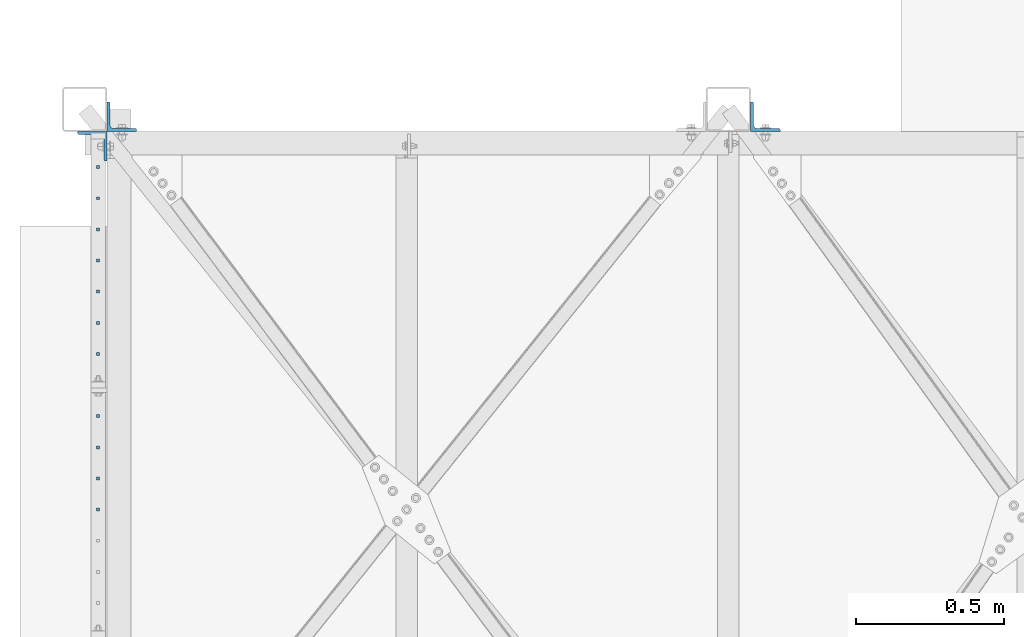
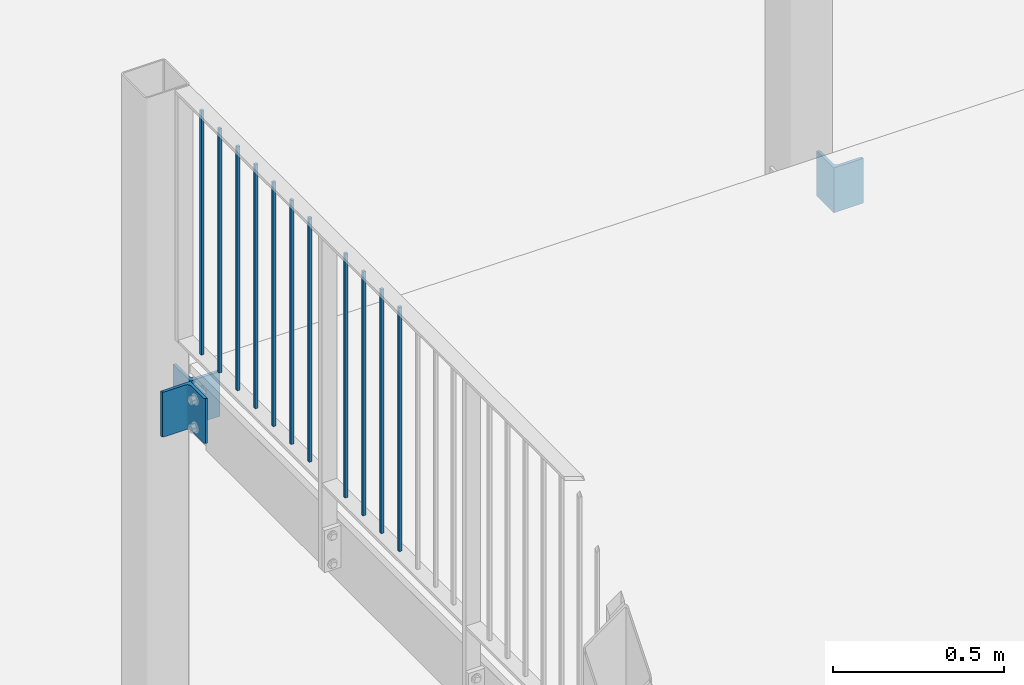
# One storey, part 47 of 78: 14 beams, 3 elements without a shape of their own.
"""IFC2X3 building model written with IfcOpenShell, lengths in millimetres."""

import ifcopenshell
import ifcopenshell.guid

model = None  # the IFC model being written
_history = None  # IfcOwnerHistory: only IFC2X3 demands one
_inside = {}  # id of a spatial element -> (the spatial element, [elements in it])
_under = {}  # id of a project, library or spatial element -> (it, [spatial elements below it])
_declared = {}  # id of a project -> (the project, [libraries it declares])
_typed = {}  # id of a type object -> (the type object, [elements of that type])
_made_of = {}  # id of a material, layer set ... -> (it, [elements and type objects made of it])


def new_model(schema):
    """Start an empty IFC model of exactly this schema.

    Asked for "IFC4X3", IfcOpenShell would pick the latest addendum, in which some entities
    have other attributes; the version numbers below select the first issue.
    IFC2X3 requires an IfcOwnerHistory on every rooted entity: one is made here for all.
    """
    global model, _history
    if schema == "IFC4X3":
        model = ifcopenshell.file(schema_version=(4, 3, 0, 0))
    else:
        model = ifcopenshell.file(schema=schema)
    _inside.clear()
    _under.clear()
    _declared.clear()
    _typed.clear()
    _made_of.clear()
    _history = None
    if model.schema == "IFC2X3":
        org = make("IfcOrganization", Name="unknown")
        user = make(
            "IfcPersonAndOrganization",
            ThePerson=make("IfcPerson", FamilyName="unknown"),
            TheOrganization=org,
        )
        app = make(
            "IfcApplication",
            ApplicationDeveloper=org,
            Version="unknown",
            ApplicationFullName="unknown",
            ApplicationIdentifier="unknown",
        )
        _history = make(
            "IfcOwnerHistory",
            OwningUser=user,
            OwningApplication=app,
            ChangeAction="ADDED",
            CreationDate=0,
        )
    return model


def make(cls, **values):
    """One entity of the class cls with the attributes given. An attribute that is None is left unset."""
    return model.create_entity(
        cls, **{name: value for name, value in values.items() if value is not None}
    )


def rooted(cls, **values):
    """An entity with a GlobalId (a new one), such as an element, a storey or a relation."""
    return make(cls, GlobalId=ifcopenshell.guid.new(), OwnerHistory=_history, **values)


def si_unit(unit_type, name, prefix=None):
    """IfcSIUnit, for example si_unit("LENGTHUNIT", "METRE", prefix="MILLI")."""
    return make("IfcSIUnit", UnitType=unit_type, Prefix=prefix, Name=name)


def assignment(units):
    """IfcUnitAssignment: the units of a project."""
    return None if units is None else make("IfcUnitAssignment", Units=units)


def point(xyz):
    """IfcCartesianPoint."""
    return None if xyz is None else make("IfcCartesianPoint", Coordinates=xyz)


def direction(xyz):
    """IfcDirection."""
    return None if xyz is None else make("IfcDirection", DirectionRatios=xyz)


def frame(location, z_axis=None, x_axis=None):
    """IfcAxis2Placement3D, a coordinate frame: its origin and axes. An axis left out is left unset."""
    return make(
        "IfcAxis2Placement3D",
        Location=point(location),
        Axis=direction(z_axis),
        RefDirection=direction(x_axis),
    )


def frame_2d(location, x_axis=None):
    """IfcAxis2Placement2D, a coordinate frame in the plane: its origin and x axis."""
    return make(
        "IfcAxis2Placement2D", Location=point(location), RefDirection=direction(x_axis)
    )


def origin_with_axes():
    """The frame at (0, 0, 0) with the z axis (0, 0, 1) and the x axis (1, 0, 0) written out."""
    return frame((0.0, 0.0, 0.0), z_axis=(0.0, 0.0, 1.0), x_axis=(1.0, 0.0, 0.0))


def origin_2d_with_axis():
    """The frame at (0, 0) in the plane with the x axis (1, 0) written out."""
    return frame_2d((0.0, 0.0), x_axis=(1.0, 0.0))


def place(relative_to, where):
    """IfcLocalPlacement: puts the frame where relative to a parent placement (None: the world)."""
    return make(
        "IfcLocalPlacement", PlacementRelTo=relative_to, RelativePlacement=where
    )


def context(
    kind, dimensions, precision=None, world=None, true_north=None, identifier=None
):
    """IfcGeometricRepresentationContext, for example the 3D "Model" context."""
    return make(
        "IfcGeometricRepresentationContext",
        ContextIdentifier=identifier,
        ContextType=kind,
        CoordinateSpaceDimension=dimensions,
        Precision=precision,
        WorldCoordinateSystem=world,
        TrueNorth=true_north,
    )


def subcontext(parent, identifier, kind, view, scale=None):
    """IfcGeometricRepresentationSubContext, for example "Body" below "Model"."""
    return make(
        "IfcGeometricRepresentationSubContext",
        ContextIdentifier=identifier,
        ContextType=kind,
        ParentContext=parent,
        TargetScale=scale,
        TargetView=view,
    )


def project(units=None, contexts=None):
    """IfcProject with its units and contexts."""
    return rooted(
        "IfcProject",
        Name="project",
        RepresentationContexts=contexts,
        UnitsInContext=assignment(units),
    )


def spatial(cls, under=None, at=None, **own):
    """A site, building, storey or space (cls), placed at a placement, below another one or the project."""
    s = rooted(cls, ObjectPlacement=at, **own)
    if under is not None:
        _under.setdefault(under.id(), (under, []))[1].append(s)
    return s


def profile(cls, at=None, kind="AREA", **sizes):
    """A parametric profile (cls). Its sizes go by their IFC names, for example OverallWidth=200.0."""
    return make(cls, ProfileType=kind, Position=at, **sizes)


def rectangle(**sizes):
    """IfcRectangleProfileDef."""
    return profile("IfcRectangleProfileDef", **sizes)


def l_section(**sizes):
    """IfcLShapeProfileDef."""
    return profile("IfcLShapeProfileDef", **sizes)


def extrude(swept, where, along, depth):
    """IfcExtrudedAreaSolid: the profile swept, set in the frame where, extruded along a direction by depth."""
    return make(
        "IfcExtrudedAreaSolid",
        SweptArea=swept,
        Position=where,
        ExtrudedDirection=direction(along),
        Depth=depth,
    )


def clip(a, b, op="DIFFERENCE"):
    """IfcBooleanClippingResult: the solid a cut by the half space b."""
    return make(
        "IfcBooleanClippingResult", Operator=op, FirstOperand=a, SecondOperand=b
    )


def halfspace(plane, agree):
    """IfcHalfSpaceSolid: all space on one side of the plane z = 0 of the frame plane."""
    return make(
        "IfcHalfSpaceSolid",
        BaseSurface=make("IfcPlane", Position=plane),
        AgreementFlag=agree,
    )


def shape(context_of_items, identifier, shape_type, items):
    """IfcShapeRepresentation: the items that make up one representation, for example the "Body"."""
    return make(
        "IfcShapeRepresentation",
        ContextOfItems=context_of_items,
        RepresentationIdentifier=identifier,
        RepresentationType=shape_type,
        Items=items,
    )


def material(Name=None, Category=None):
    """IfcMaterial."""
    return make("IfcMaterial", Name=Name, Category=Category)


def made_of(thing, what):
    """Note that an element or type object is made of a material, layer set ...; save() writes the relation."""
    if what is not None:
        _made_of.setdefault(what.id(), (what, []))[1].append(thing)
    return thing


def type_object(cls, material=None, **own):
    """A type object (cls), such as IfcWallType, which elements share."""
    return made_of(rooted(cls, **own), material)


def element(
    cls,
    number,
    at=None,
    inside=None,
    cuts=None,
    type_object=None,
    material=None,
    context=None,
    identifier="Body",
    shape_type=None,
    held_by="IfcProductDefinitionShape",
    body=None,
    shapes=None,
    **own,
):
    """One element of the class cls, such as IfcWall. Its Tag is "e" and its number.

    at: its placement. inside: the storey or other place that contains it. cuts: it is an
    opening in that element (IfcRelVoidsElement). A single representation is given by context,
    identifier, shape_type and body (its items); several are given by shapes. held_by: the class
    of the entity that holds the representations. save() writes the other relations.
    """
    e = rooted(cls, Tag="e%d" % number, ObjectPlacement=at, **own)
    if body is not None:
        shapes = [shape(context, identifier, shape_type, body)]
    if shapes is not None:
        e.Representation = make(held_by, Representations=shapes)
    if inside is not None:
        _inside.setdefault(inside.id(), (inside, []))[1].append(e)
    if cuts is not None:
        rooted(
            "IfcRelVoidsElement", RelatingBuildingElement=cuts, RelatedOpeningElement=e
        )
    if type_object is not None:
        _typed.setdefault(type_object.id(), (type_object, []))[1].append(e)
    return made_of(e, material)


def aggregate(whole, parts):
    """IfcRelAggregates: a whole, such as a stair, and the parts it consists of."""
    return rooted("IfcRelAggregates", RelatingObject=whole, RelatedObjects=parts)


def save(model, path):
    """Write the relations noted so far, then the file.

    IfcRelAggregates (storeys below a building ...), IfcRelContainedInSpatialStructure (elements
    in a storey), IfcRelDefinesByType, IfcRelAssociatesMaterial and IfcRelDeclares: one each for
    every whole, place, type object, material and project.
    """
    for whole, parts in _under.values():
        aggregate(whole, parts)
    for where, things in _inside.values():
        rooted(
            "IfcRelContainedInSpatialStructure",
            RelatedElements=things,
            RelatingStructure=where,
        )
    for kind, things in _typed.values():
        rooted("IfcRelDefinesByType", RelatedObjects=things, RelatingType=kind)
    for what, things in _made_of.values():
        rooted("IfcRelAssociatesMaterial", RelatedObjects=things, RelatingMaterial=what)
    for by, libraries in _declared.values():
        rooted("IfcRelDeclares", RelatingContext=by, RelatedDefinitions=libraries)
    model.write(path)


model = new_model("IFC2X3")

# Units and contexts
model_context = context("Model", 3, precision=1e-05, world=origin_with_axes())
body_context = subcontext(model_context, "Body", "Model", "MODEL_VIEW")
ifc_project = project(units=[si_unit("LENGTHUNIT", "METRE", prefix="MILLI"), si_unit("AREAUNIT", "SQUARE_METRE"), si_unit("VOLUMEUNIT", "CUBIC_METRE"), si_unit("MASSUNIT", "GRAM", prefix="KILO"), si_unit("TIMEUNIT", "SECOND"), si_unit("PLANEANGLEUNIT", "RADIAN"), si_unit("SOLIDANGLEUNIT", "STERADIAN"), si_unit("THERMODYNAMICTEMPERATUREUNIT", "DEGREE_CELSIUS"), si_unit("LUMINOUSINTENSITYUNIT", "LUMEN")], contexts=[model_context])

# Site, building, storey
site_placement = place(None, origin_with_axes())
site = spatial("IfcSite", under=ifc_project, at=site_placement, Name="Site", CompositionType="ELEMENT")
building_placement = place(site_placement, origin_with_axes())
building = spatial("IfcBuilding", under=site, at=building_placement, Name="Undefined", CompositionType="ELEMENT")
storey_placement = place(building_placement, origin_with_axes())
storey = spatial("IfcBuildingStorey", under=building, at=storey_placement, Name="Undefined", CompositionType="ELEMENT", Elevation=0.0)

# Assembly, beams
assembly_1_placement = place(storey_placement, origin_with_axes())
assembly_1 = element("IfcElementAssembly", 1, at=assembly_1_placement, inside=storey, Name="MAIN_COURANTE", AssemblyPlace="NOTDEFINED", PredefinedType="RIGID_FRAME")
ifc_material = material(Name="STEEL/S235JR")
beam_type_1 = type_object("IfcBeamType", Name="PL10*10", PredefinedType="NOTDEFINED")
beam_1_placement = place(assembly_1_placement, frame((-35341.4299999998, 11458.0, 157695.04), z_axis=(1.0, 0.0, 0.0), x_axis=(0.0, 0.0, -1.0)))
beam_1 = element("IfcBeam", 2, at=beam_1_placement, type_object=beam_type_1, material=ifc_material, Name="LISSE", ObjectType="PL10*10", context=body_context, shape_type="Clipping", body=[
    clip(clip(extrude(rectangle(XDim=10.0, YDim=10.0, at=origin_2d_with_axis()), frame((880.0, 0.0, 0.0), z_axis=(-1.0, 0.0, 0.0), x_axis=(0.0, -1.0, 0.0)), (0.0, 0.0, 1.0), 880.0), halfspace(frame((875.0, 0.0, 1005.0), z_axis=(1.0, 0.0, 0.0), x_axis=(0.0, 1.0, 0.0)), False)), halfspace(frame((5.0, 0.0, 1005.0), z_axis=(-1.0, 0.0, 0.0), x_axis=(0.0, -1.0, 0.0)), False)),
])
beam_2_placement = place(assembly_1_placement, frame((-35341.4299999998, 11563.0, 157695.04), z_axis=(1.0, 0.0, 0.0), x_axis=(0.0, 0.0, -1.0)))
beam_2 = element("IfcBeam", 3, at=beam_2_placement, type_object=beam_type_1, material=ifc_material, Name="LISSE", ObjectType="PL10*10", context=body_context, shape_type="Clipping", body=[
    clip(clip(extrude(rectangle(XDim=10.0, YDim=10.0, at=origin_2d_with_axis()), frame((880.0, 0.0, 0.0), z_axis=(-1.0, 0.0, 0.0), x_axis=(0.0, -1.0, 0.0)), (0.0, 0.0, 1.0), 880.0), halfspace(frame((875.0, 0.0, 1005.0), z_axis=(1.0, 0.0, 0.0), x_axis=(0.0, 1.0, 0.0)), False)), halfspace(frame((5.0, 0.0, 1005.0), z_axis=(-1.0, 0.0, 0.0), x_axis=(0.0, -1.0, 0.0)), False)),
])
beam_3_placement = place(assembly_1_placement, frame((-35341.4299999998, 11668.0, 157695.04), z_axis=(1.0, 0.0, 0.0), x_axis=(0.0, 0.0, -1.0)))
beam_3 = element("IfcBeam", 4, at=beam_3_placement, type_object=beam_type_1, material=ifc_material, Name="LISSE", ObjectType="PL10*10", context=body_context, shape_type="Clipping", body=[
    clip(clip(extrude(rectangle(XDim=10.0, YDim=10.0, at=origin_2d_with_axis()), frame((880.0, 0.0, 0.0), z_axis=(-1.0, 0.0, 0.0), x_axis=(0.0, -1.0, 0.0)), (0.0, 0.0, 1.0), 880.0), halfspace(frame((875.0, 0.0, 1005.0), z_axis=(1.0, 0.0, 0.0), x_axis=(0.0, 1.0, 0.0)), False)), halfspace(frame((5.0, 0.0, 1005.0), z_axis=(-1.0, 0.0, 0.0), x_axis=(0.0, -1.0, 0.0)), False)),
])
beam_4_placement = place(assembly_1_placement, frame((-35341.4299999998, 11773.0, 157695.04), z_axis=(1.0, 0.0, 0.0), x_axis=(0.0, 0.0, -1.0)))
beam_4 = element("IfcBeam", 5, at=beam_4_placement, type_object=beam_type_1, material=ifc_material, Name="LISSE", ObjectType="PL10*10", context=body_context, shape_type="Clipping", body=[
    clip(clip(extrude(rectangle(XDim=10.0, YDim=10.0, at=origin_2d_with_axis()), frame((880.0, 0.0, 0.0), z_axis=(-1.0, 0.0, 0.0), x_axis=(0.0, -1.0, 0.0)), (0.0, 0.0, 1.0), 880.0), halfspace(frame((875.0, 0.0, 1005.0), z_axis=(1.0, 0.0, 0.0), x_axis=(0.0, 1.0, 0.0)), False)), halfspace(frame((5.0, 0.0, 1005.0), z_axis=(-1.0, 0.0, 0.0), x_axis=(0.0, -1.0, 0.0)), False)),
])
beam_5_placement = place(assembly_1_placement, frame((-35341.4299999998, 11983.0, 157695.04), z_axis=(1.0, 0.0, 0.0), x_axis=(0.0, 0.0, -1.0)))
beam_5 = element("IfcBeam", 6, at=beam_5_placement, type_object=beam_type_1, material=ifc_material, Name="LISSE", ObjectType="PL10*10", context=body_context, shape_type="Clipping", body=[
    clip(clip(extrude(rectangle(XDim=10.0, YDim=10.0, at=origin_2d_with_axis()), frame((880.0, 0.0, 0.0), z_axis=(-1.0, 0.0, 0.0), x_axis=(0.0, -1.0, 0.0)), (0.0, 0.0, 1.0), 880.0), halfspace(frame((875.0, 0.0, 1005.0), z_axis=(1.0, 0.0, 0.0), x_axis=(0.0, 1.0, 0.0)), False)), halfspace(frame((5.0, 0.0, 1005.0), z_axis=(-1.0, 0.0, 0.0), x_axis=(0.0, -1.0, 0.0)), False)),
])
beam_6_placement = place(assembly_1_placement, frame((-35341.4299999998, 12088.0, 157695.04), z_axis=(1.0, 0.0, 0.0), x_axis=(0.0, 0.0, -1.0)))
beam_6 = element("IfcBeam", 7, at=beam_6_placement, type_object=beam_type_1, material=ifc_material, Name="LISSE", ObjectType="PL10*10", context=body_context, shape_type="Clipping", body=[
    clip(clip(extrude(rectangle(XDim=10.0, YDim=10.0, at=origin_2d_with_axis()), frame((880.0, 0.0, 0.0), z_axis=(-1.0, 0.0, 0.0), x_axis=(0.0, -1.0, 0.0)), (0.0, 0.0, 1.0), 880.0), halfspace(frame((875.0, 0.0, 1005.0), z_axis=(1.0, 0.0, 0.0), x_axis=(0.0, 1.0, 0.0)), False)), halfspace(frame((5.0, 0.0, 1005.0), z_axis=(-1.0, 0.0, 0.0), x_axis=(0.0, -1.0, 0.0)), False)),
])
beam_7_placement = place(assembly_1_placement, frame((-35341.4299999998, 12193.0, 157695.04), z_axis=(1.0, 0.0, 0.0), x_axis=(0.0, 0.0, -1.0)))
beam_7 = element("IfcBeam", 8, at=beam_7_placement, type_object=beam_type_1, material=ifc_material, Name="LISSE", ObjectType="PL10*10", context=body_context, shape_type="Clipping", body=[
    clip(clip(extrude(rectangle(XDim=10.0, YDim=10.0, at=origin_2d_with_axis()), frame((880.0, 0.0, 0.0), z_axis=(-1.0, 0.0, 0.0), x_axis=(0.0, -1.0, 0.0)), (0.0, 0.0, 1.0), 880.0), halfspace(frame((875.0, 0.0, 1005.0), z_axis=(1.0, 0.0, 0.0), x_axis=(0.0, 1.0, 0.0)), False)), halfspace(frame((5.0, 0.0, 1005.0), z_axis=(-1.0, 0.0, 0.0), x_axis=(0.0, -1.0, 0.0)), False)),
])
beam_8_placement = place(assembly_1_placement, frame((-35341.4299999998, 12298.0, 157695.04), z_axis=(1.0, 0.0, 0.0), x_axis=(0.0, 0.0, -1.0)))
beam_8 = element("IfcBeam", 9, at=beam_8_placement, type_object=beam_type_1, material=ifc_material, Name="LISSE", ObjectType="PL10*10", context=body_context, shape_type="Clipping", body=[
    clip(clip(extrude(rectangle(XDim=10.0, YDim=10.0, at=origin_2d_with_axis()), frame((880.0, 0.0, 0.0), z_axis=(-1.0, 0.0, 0.0), x_axis=(0.0, -1.0, 0.0)), (0.0, 0.0, 1.0), 880.0), halfspace(frame((875.0, 0.0, 1005.0), z_axis=(1.0, 0.0, 0.0), x_axis=(0.0, 1.0, 0.0)), False)), halfspace(frame((5.0, 0.0, 1005.0), z_axis=(-1.0, 0.0, 0.0), x_axis=(0.0, -1.0, 0.0)), False)),
])
beam_9_placement = place(assembly_1_placement, frame((-35341.4299999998, 12403.0, 157695.04), z_axis=(1.0, 0.0, 0.0), x_axis=(0.0, 0.0, -1.0)))
beam_9 = element("IfcBeam", 10, at=beam_9_placement, type_object=beam_type_1, material=ifc_material, Name="LISSE", ObjectType="PL10*10", context=body_context, shape_type="Clipping", body=[
    clip(clip(extrude(rectangle(XDim=10.0, YDim=10.0, at=origin_2d_with_axis()), frame((880.0, 0.0, 0.0), z_axis=(-1.0, 0.0, 0.0), x_axis=(0.0, -1.0, 0.0)), (0.0, 0.0, 1.0), 880.0), halfspace(frame((875.0, 0.0, 1005.0), z_axis=(1.0, 0.0, 0.0), x_axis=(0.0, 1.0, 0.0)), False)), halfspace(frame((5.0, 0.0, 1005.0), z_axis=(-1.0, 0.0, 0.0), x_axis=(0.0, -1.0, 0.0)), False)),
])
beam_10_placement = place(assembly_1_placement, frame((-35341.4299999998, 12508.0, 157695.04), z_axis=(1.0, 0.0, 0.0), x_axis=(0.0, 0.0, -1.0)))
beam_10 = element("IfcBeam", 11, at=beam_10_placement, type_object=beam_type_1, material=ifc_material, Name="LISSE", ObjectType="PL10*10", context=body_context, shape_type="Clipping", body=[
    clip(clip(extrude(rectangle(XDim=10.0, YDim=10.0, at=origin_2d_with_axis()), frame((880.0, 0.0, 0.0), z_axis=(-1.0, 0.0, 0.0), x_axis=(0.0, -1.0, 0.0)), (0.0, 0.0, 1.0), 880.0), halfspace(frame((875.0, 0.0, 1005.0), z_axis=(1.0, 0.0, 0.0), x_axis=(0.0, 1.0, 0.0)), False)), halfspace(frame((5.0, 0.0, 1005.0), z_axis=(-1.0, 0.0, 0.0), x_axis=(0.0, -1.0, 0.0)), False)),
])
beam_11_placement = place(assembly_1_placement, frame((-35341.4299999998, 12613.0, 157695.04), z_axis=(1.0, 0.0, 0.0), x_axis=(0.0, 0.0, -1.0)))
beam_11 = element("IfcBeam", 12, at=beam_11_placement, type_object=beam_type_1, material=ifc_material, Name="LISSE", ObjectType="PL10*10", context=body_context, shape_type="Clipping", body=[
    clip(clip(extrude(rectangle(XDim=10.0, YDim=10.0, at=origin_2d_with_axis()), frame((880.0, 0.0, 0.0), z_axis=(-1.0, 0.0, 0.0), x_axis=(0.0, -1.0, 0.0)), (0.0, 0.0, 1.0), 880.0), halfspace(frame((875.0, 0.0, 1005.0), z_axis=(1.0, 0.0, 0.0), x_axis=(0.0, 1.0, 0.0)), False)), halfspace(frame((5.0, 0.0, 1005.0), z_axis=(-1.0, 0.0, 0.0), x_axis=(0.0, -1.0, 0.0)), False)),
])
aggregate(assembly_1, [beam_1, beam_2, beam_3, beam_4, beam_5, beam_6, beam_7, beam_8, beam_9, beam_10, beam_11])

# Assembly, beam
assembly_2_placement = place(storey_placement, origin_with_axes())
assembly_2 = element("IfcElementAssembly", 13, at=assembly_2_placement, inside=storey, Name="POTEAU", AssemblyPlace="NOTDEFINED", PredefinedType="RIGID_FRAME")
beam_type_2 = type_object("IfcBeamType", Name="L100*10", PredefinedType="NOTDEFINED")
beam_12_placement = place(assembly_2_placement, frame((-33091.43, 12783.0, 156640.04), z_axis=(0.0, 1.0, 0.0), x_axis=(0.0, 0.0, -1.0)))
beam_12 = element("IfcBeam", 14, at=beam_12_placement, type_object=beam_type_2, material=ifc_material, Name="CORNIERE", ObjectType="L100*10", context=body_context, shape_type="SweptSolid", body=[
    extrude(l_section(Depth=100.0, Width=100.0, Thickness=10.0, FilletRadius=12.0, EdgeRadius=6.0, at=origin_2d_with_axis()), frame((160.0, 0.0, 0.0), z_axis=(-1.0, 0.0, 0.0), x_axis=(0.0, -1.0, 0.0)), (0.0, 0.0, 1.0), 160.0),
])
aggregate(assembly_2, [beam_12])

# Assembly, beams
assembly_3_placement = place(storey_placement, origin_with_axes())
assembly_3 = element("IfcElementAssembly", 15, at=assembly_3_placement, inside=storey, Name="POTEAU", AssemblyPlace="NOTDEFINED", PredefinedType="RIGID_FRAME")
beam_13_placement = place(assembly_3_placement, frame((-35261.43, 12783.0, 156640.04), z_axis=(0.0, 1.0, 0.0), x_axis=(0.0, 0.0, -1.0)))
beam_13 = element("IfcBeam", 16, at=beam_13_placement, type_object=beam_type_2, material=ifc_material, Name="CORNIERE", ObjectType="L100*10", context=body_context, shape_type="SweptSolid", body=[
    extrude(l_section(Depth=100.0, Width=100.0, Thickness=10.0, FilletRadius=12.0, EdgeRadius=6.0, at=origin_2d_with_axis()), frame((160.0, 0.0, 0.0), z_axis=(-1.0, 0.0, 0.0), x_axis=(0.0, -1.0, 0.0)), (0.0, 0.0, 1.0), 160.0),
])
beam_14_placement = place(assembly_3_placement, frame((-35361.43, 12683.0, 156640.04), z_axis=(0.0, -1.0, 0.0), x_axis=(0.0, 0.0, -1.0)))
beam_14 = element("IfcBeam", 17, at=beam_14_placement, type_object=beam_type_2, material=ifc_material, Name="CORNIERE", ObjectType="L100*10", context=body_context, shape_type="SweptSolid", body=[
    extrude(l_section(Depth=100.0, Width=100.0, Thickness=10.0, FilletRadius=12.0, EdgeRadius=6.0, at=origin_2d_with_axis()), frame((160.0, 0.0, 0.0), z_axis=(-1.0, 0.0, 0.0), x_axis=(0.0, -1.0, 0.0)), (0.0, 0.0, 1.0), 160.0),
])
aggregate(assembly_3, [beam_13, beam_14])

save(model, "model.ifc")
